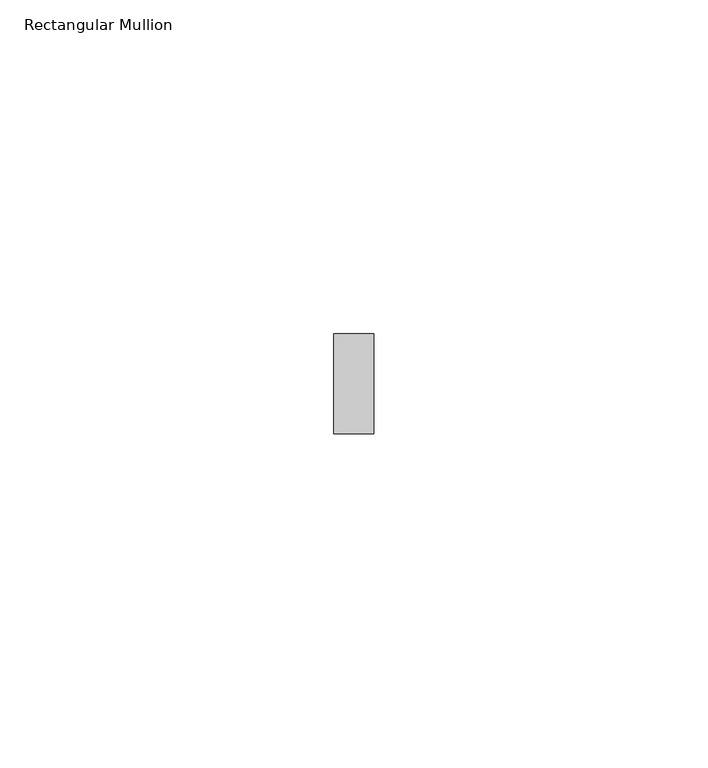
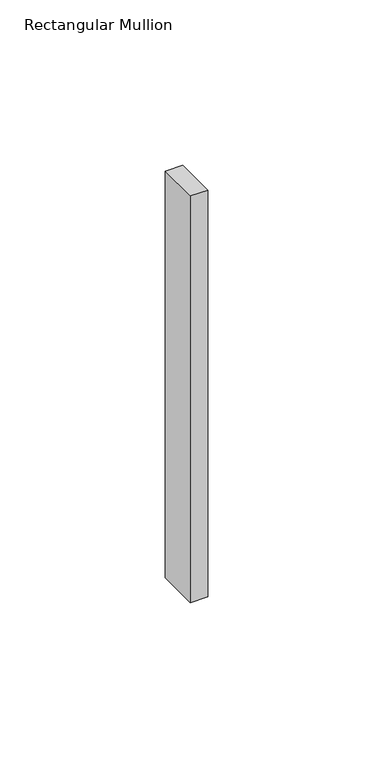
"""IFC4 building model written with IfcOpenShell, lengths in millimetres: member geometry, Rectangular Mullion : ARQ_HERR_15X6mm."""

from ifc_helpers import new_model, si_unit, frame, origin, place, context, project, spatial, polyline, outline, extrude, source, transform, mapped, element, save


def rectangular_mullion_4732226b(model_context):
    return source(origin(), model_context, "Body", "SweptSolid", [
        extrude(outline(polyline([(3.0, 7.5), (3.0, -7.5), (-3.0, -7.5), (-3.0, 7.5), (3.0, 7.5)])), frame((0.0, 0.0, -150.0), z_axis=(0.0, 0.0, 1.0), x_axis=(1.0, 0.0, 0.0)), (0.0, 0.0, 1.0), 150.0),
    ])


if __name__ == "__main__":
    model = new_model("IFC4")
    model_context = context("Model", 3, world=origin())
    ifc_project = project(units=[si_unit("LENGTHUNIT", "METRE", prefix="MILLI")], contexts=[model_context])
    site = spatial("IfcSite", under=ifc_project)
    building = spatial("IfcBuilding", under=site)
    placement = place(None, origin())
    rectangular_mullion_shape = rectangular_mullion_4732226b(model_context)
    element("IfcMember", 1, ObjectType="Rectangular Mullion : ARQ_HERR_15X6mm", at=placement, inside=building, context=model_context, shape_type="MappedRepresentation", body=[
        mapped(rectangular_mullion_shape, transform((0.0, 0.0, 0.0), x_axis=(1.0, 0.0, 0.0), y_axis=(0.0, 1.0, 0.0), z_axis=(0.0, 0.0, 1.0))),
    ])
    save(model, "model.ifc")
